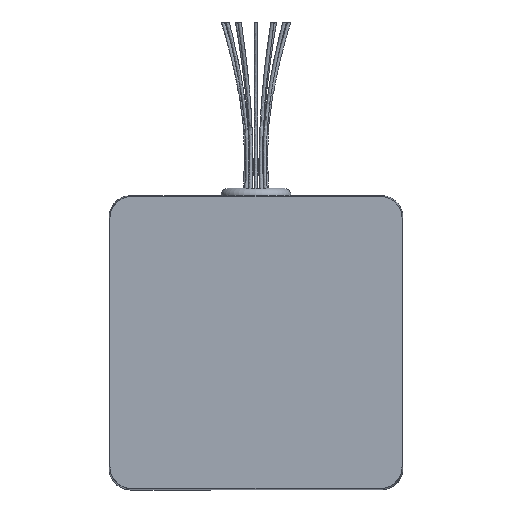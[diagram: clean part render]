
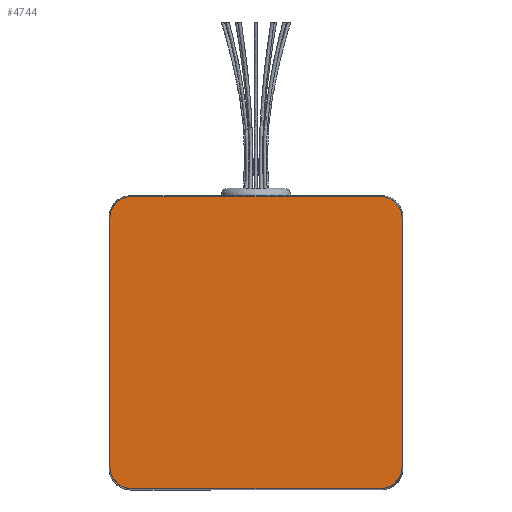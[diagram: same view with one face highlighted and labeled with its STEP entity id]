
A CAD part, top view. The second image highlights one B-rep face of the part: STEP entity #4744.
In plain terms, the highlighted planar face has unit normal (0, 0, 1).
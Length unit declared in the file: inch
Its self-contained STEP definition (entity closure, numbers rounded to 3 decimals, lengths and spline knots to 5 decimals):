
#4054=CARTESIAN_POINT('',(0.0,1.675,4.195));
#4055=VERTEX_POINT('',#4054);
#4099=CARTESIAN_POINT('',(-1.425,1.675,4.195));
#4100=VERTEX_POINT('',#4099);
#4107=CARTESIAN_POINT('',(-1.425,1.675,4.195));
#4108=DIRECTION('',(1.0,0.0,0.0));
#4109=VECTOR('',#4108,1.425);
#4110=LINE('',#4107,#4109);
#4111=EDGE_CURVE('',#4100,#4055,#4110,.T.);
#4122=CARTESIAN_POINT('',(1.425,1.675,4.195));
#4123=VERTEX_POINT('',#4122);
#4124=CARTESIAN_POINT('',(0.0,1.675,4.195));
#4125=DIRECTION('',(1.0,0.0,0.0));
#4126=VECTOR('',#4125,1.425);
#4127=LINE('',#4124,#4126);
#4128=EDGE_CURVE('',#4055,#4123,#4127,.T.);
#4267=CARTESIAN_POINT('',(1.675,1.425,4.195));
#4268=VERTEX_POINT('',#4267);
#4275=CARTESIAN_POINT('',(1.675,-1.425,4.195));
#4276=VERTEX_POINT('',#4275);
#4277=CARTESIAN_POINT('',(1.675,1.425,4.195));
#4278=DIRECTION('',(0.0,-1.0,0.0));
#4279=VECTOR('',#4278,2.85);
#4280=LINE('',#4277,#4279);
#4281=EDGE_CURVE('',#4268,#4276,#4280,.T.);
#4345=CARTESIAN_POINT('',(1.425,1.425,4.195));
#4346=DIRECTION('',(0.0,0.0,-1.));
#4347=DIRECTION('',(0.707,0.707,0.0));
#4348=AXIS2_PLACEMENT_3D('',#4345,#4346,#4347);
#4349=CIRCLE('',#4348,0.25);
#4350=EDGE_CURVE('',#4123,#4268,#4349,.T.);
#4434=CARTESIAN_POINT('',(-1.675,1.425,4.195));
#4435=VERTEX_POINT('',#4434);
#4442=CARTESIAN_POINT('',(-1.425,1.425,4.195));
#4443=DIRECTION('',(0.0,0.0,-1.));
#4444=DIRECTION('',(-0.707,0.707,0.0));
#4445=AXIS2_PLACEMENT_3D('',#4442,#4443,#4444);
#4446=CIRCLE('',#4445,0.25);
#4447=EDGE_CURVE('',#4435,#4100,#4446,.T.);
#4520=CARTESIAN_POINT('',(1.425,-1.675,4.195));
#4521=VERTEX_POINT('',#4520);
#4528=CARTESIAN_POINT('',(-1.425,-1.675,4.195));
#4529=VERTEX_POINT('',#4528);
#4530=CARTESIAN_POINT('',(1.425,-1.675,4.195));
#4531=DIRECTION('',(-1.0,0.0,0.0));
#4532=VECTOR('',#4531,2.85);
#4533=LINE('',#4530,#4532);
#4534=EDGE_CURVE('',#4521,#4529,#4533,.T.);
#4552=CARTESIAN_POINT('',(1.425,-1.425,4.195));
#4553=DIRECTION('',(0.0,0.0,-1.));
#4554=DIRECTION('',(0.707,-0.707,0.0));
#4555=AXIS2_PLACEMENT_3D('',#4552,#4553,#4554);
#4556=CIRCLE('',#4555,0.25);
#4557=EDGE_CURVE('',#4276,#4521,#4556,.T.);
#4704=CARTESIAN_POINT('',(-1.675,-1.425,4.195));
#4705=VERTEX_POINT('',#4704);
#4712=CARTESIAN_POINT('',(-1.675,-1.425,4.195));
#4713=DIRECTION('',(0.0,1.0,0.0));
#4714=VECTOR('',#4713,2.85);
#4715=LINE('',#4712,#4714);
#4716=EDGE_CURVE('',#4705,#4435,#4715,.T.);
#4722=CARTESIAN_POINT('',(0.,0.,4.195));
#4723=DIRECTION('',(0.0,0.0,1.0));
#4724=DIRECTION('',(1.0,0.0,0.0));
#4725=AXIS2_PLACEMENT_3D('',#4722,#4723,#4724);
#4726=PLANE('',#4725);
#4727=CARTESIAN_POINT('',(-1.425,-1.425,4.195));
#4728=DIRECTION('',(0.0,0.0,-1.));
#4729=DIRECTION('',(-0.707,-0.707,0.0));
#4730=AXIS2_PLACEMENT_3D('',#4727,#4728,#4729);
#4731=CIRCLE('',#4730,0.25);
#4732=EDGE_CURVE('',#4529,#4705,#4731,.T.);
#4733=ORIENTED_EDGE('',*,*,#4732,.F.);
#4734=ORIENTED_EDGE('',*,*,#4534,.F.);
#4735=ORIENTED_EDGE('',*,*,#4557,.F.);
#4736=ORIENTED_EDGE('',*,*,#4281,.F.);
#4737=ORIENTED_EDGE('',*,*,#4350,.F.);
#4738=ORIENTED_EDGE('',*,*,#4128,.F.);
#4739=ORIENTED_EDGE('',*,*,#4111,.F.);
#4740=ORIENTED_EDGE('',*,*,#4447,.F.);
#4741=ORIENTED_EDGE('',*,*,#4716,.F.);
#4742=EDGE_LOOP('',(#4733,#4734,#4735,#4736,#4737,#4738,#4739,#4740,#4741));
#4743=FACE_OUTER_BOUND('',#4742,.T.);
#4744=ADVANCED_FACE('',(#4743),#4726,.T.);
